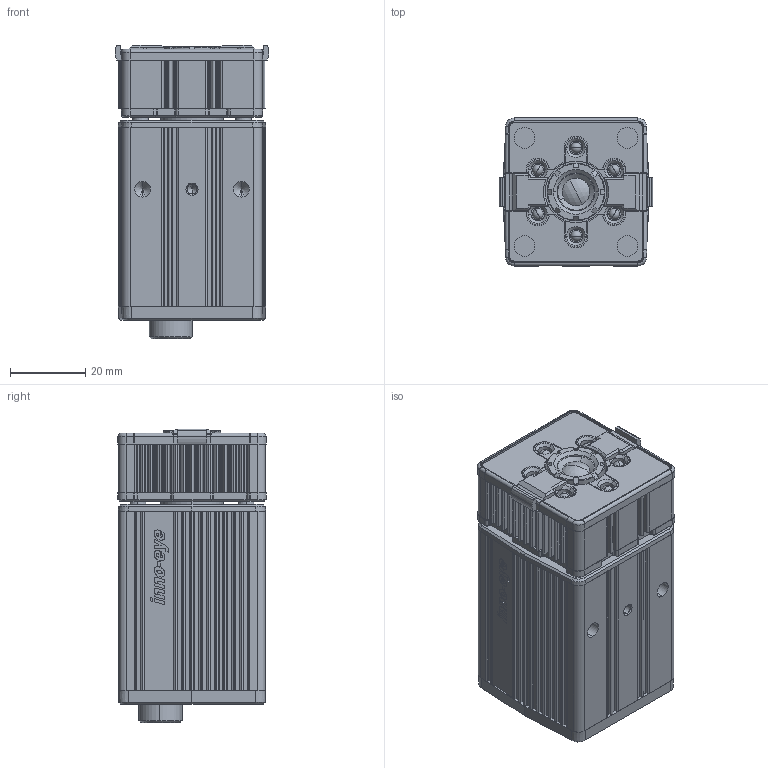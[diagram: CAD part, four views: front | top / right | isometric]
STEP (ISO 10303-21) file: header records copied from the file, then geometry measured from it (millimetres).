
FILE_DESCRIPTION (( 'STEP AP203' ), '1' );
FILE_NAME ('BUILT-IN (OV)-16.08.05.STEP', '2016-08-08T11:25:11', ( '' ), ( '' ), 'SwSTEP 2.0', 'SolidWorks 2008', '' );
FILE_SCHEMA (( 'CONFIG_CONTROL_DESIGN' ));
Products named in the file (1): BUILT-IN (OV)-16.08.05
Bounding box: 41 x 39.42 x 78.1 mm (x, y, z)
Volume: 101253 mm3; surface area: 36069.2 mm2
Topology: 32 solids, 32 shells, 1995 faces, 5476 edges, 3567 vertices
Faces by surface type: plane 1090, cylinder 625, cone 137, bspline 121, sphere 18, torus 4
Entity records: 64802 total; most frequent: CARTESIAN_POINT 13810, ORIENTED_EDGE 10884, DIRECTION 10343, EDGE_CURVE 5442, VECTOR 3711, LINE 3711, VERTEX_POINT 3555, AXIS2_PLACEMENT_3D 3316
